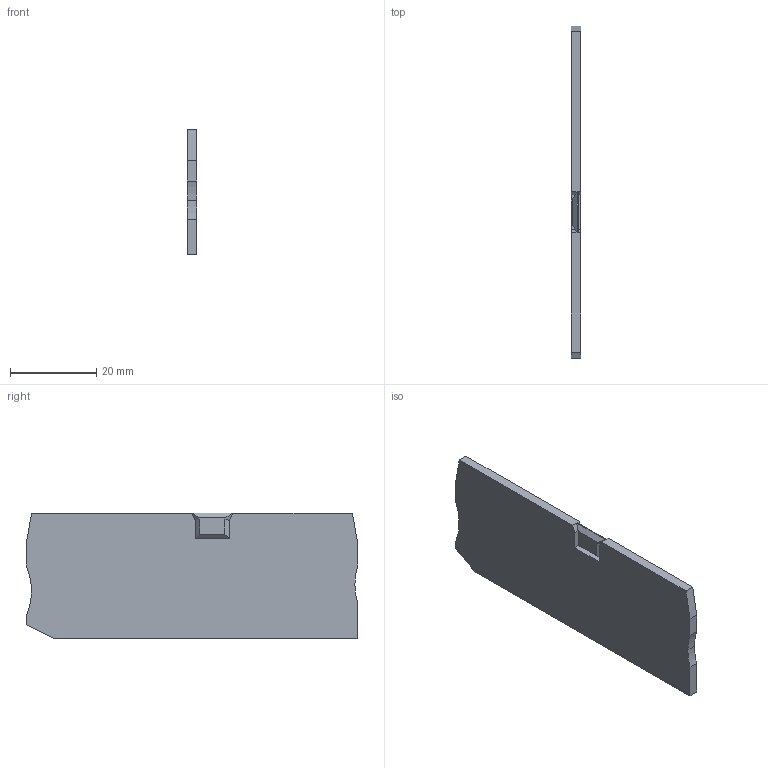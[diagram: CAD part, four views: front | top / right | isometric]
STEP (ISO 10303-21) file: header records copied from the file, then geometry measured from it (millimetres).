
FILE_DESCRIPTION(('TFLEX Exchange Step'),'2;1');
FILE_NAME('14000156_К-КНБ_4-4-С.stp', '2025-06-24T11:22:27+03:00',('MVarava'),('Unknown organisation'),'TFLEX Exchange 2023.0','T-FLEX CAD','Unknown authorisation');
FILE_SCHEMA( ('AUTOMOTIVE_DESIGN { 1 0 10303 214 1 1 1 1 }') );
Length unit declared in the file: millimetre
Products named in the file (1): Nodes
Bounding box: 2.2 x 77 x 29.2 mm (x, y, z)
Volume: 4825.7 mm3; surface area: 4934.3 mm2
Topology: 1 solids, 1 shells, 261 faces, 744 edges, 492 vertices
Faces by surface type: cylinder 166, plane 95
Entity records: 8663 total; most frequent: CARTESIAN_POINT 1643, DIRECTION 1529, ORIENTED_EDGE 1488, EDGE_CURVE 744, AXIS2_PLACEMENT_3D 590, VERTEX_POINT 492, VECTOR 349, LINE 349
